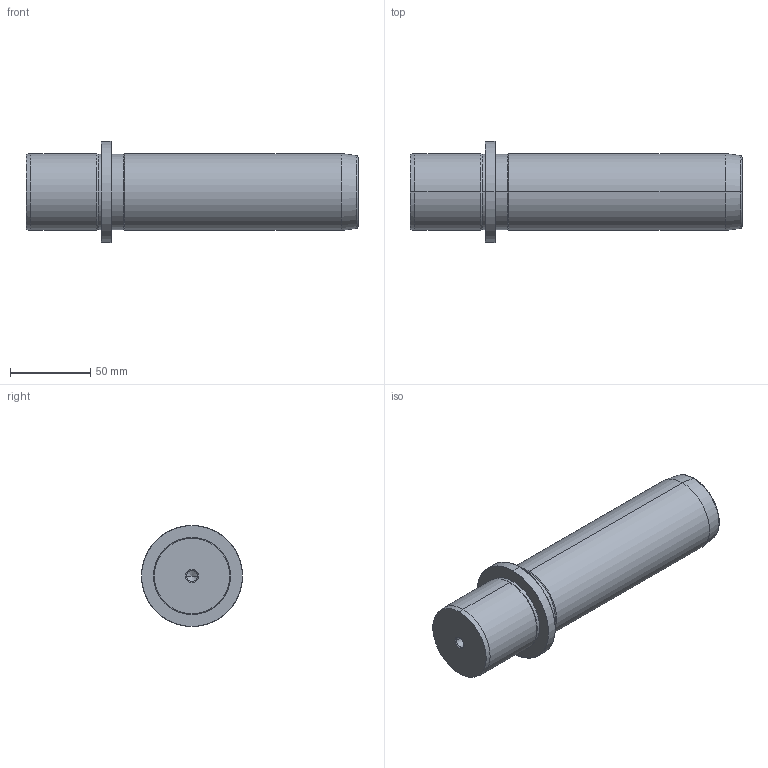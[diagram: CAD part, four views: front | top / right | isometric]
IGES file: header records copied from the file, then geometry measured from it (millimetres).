
Start section: START RECORD GO HERE.
Global section: file name: 719-48x160.igs; native system: DASSAULT SYSTEMES CATIA V5 R20 - www.3ds.com; preprocessor: CATIA Version 5 Release 20 ; author: Utente; organization: NB04-ASUS; date: 20210103.162010; units: millimetre
Bounding box: 207 x 63 x 63 mm (x, y, z)
Surface area: 38540.6 mm2 (no closed solid volume)
Topology: 0 solids, 0 shells, 36 faces, 196 edges, 192 vertices
Faces by surface type: revolution 32, plane 4
